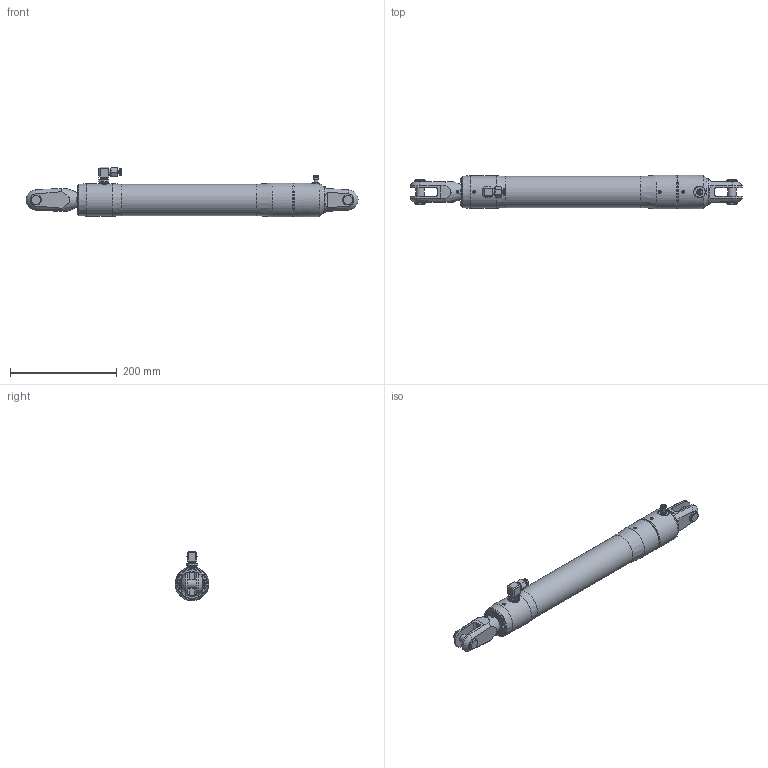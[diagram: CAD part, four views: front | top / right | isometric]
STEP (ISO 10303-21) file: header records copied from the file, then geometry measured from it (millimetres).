
FILE_DESCRIPTION(/* description */ (''),/* implementation_level */ '2;1');
FILE_NAME(/* name */ 'Q:\AA BRAND HYDRAULICS\HYDRAULICS FAMILY DIRECTORY\HYDRAULICS\CYLINDERS\RAMS\STAINLESS - STANDARD SINGLE ACTING (-0006 To -0260)\RSS-0017-S0260-NP-71\RSS-0017-S0260-NP-71 (Closed).stp',/* time_stamp */ '2018-02-06T11:32:31+00:00',/* author */ ('Lorena'),/* organization */ (''),/* preprocessor_version */ 'ST-DEVELOPER v17',/* originating_system */ 'Autodesk Inventor 2018',/* authorisation */ '');
FILE_SCHEMA (('AUTOMOTIVE_DESIGN { 1 0 10303 214 3 1 1 }'));
Length unit declared in the file: millimetre
Products named in the file (1): RSS-0017-S0260-NP-71 (Closed)
Bounding box: 622.05 x 63.4 x 93.2 mm (x, y, z)
Volume: 1471551.7 mm3; surface area: 126726.2 mm2
Topology: 2 solids, 6 shells, 1781 faces, 4797 edges, 3179 vertices
Faces by surface type: plane 1004, bspline 574, cone 108, cylinder 87, sphere 4, torus 4
Full cylindrical faces by diameter (mm): 4 x1, 4.2 x2, 4.4 x1, 5 x3, 5.1 x1, 5.5 x2, 7 x1, 9 x1, 10 x2, 11.11 x1, 11.157 x1, 11.5 x1, 11.8 x1, 12 x3, 12.157 x1, 13 x1, 13.157 x2, 14.5 x2, 15.88 x2, 18 x1, 18.3 x3, 19.85 x2, 20 x1, 56.8 x1, 58.4 x1, 61.4 x1, 62.4 x1, 63.4 x2
Entity records: 63430 total; most frequent: CARTESIAN_POINT 20967, ORIENTED_EDGE 9582, DIRECTION 6305, EDGE_CURVE 4791, VERTEX_POINT 3180, LINE 2971, VECTOR 2971, EDGE_LOOP 1951
